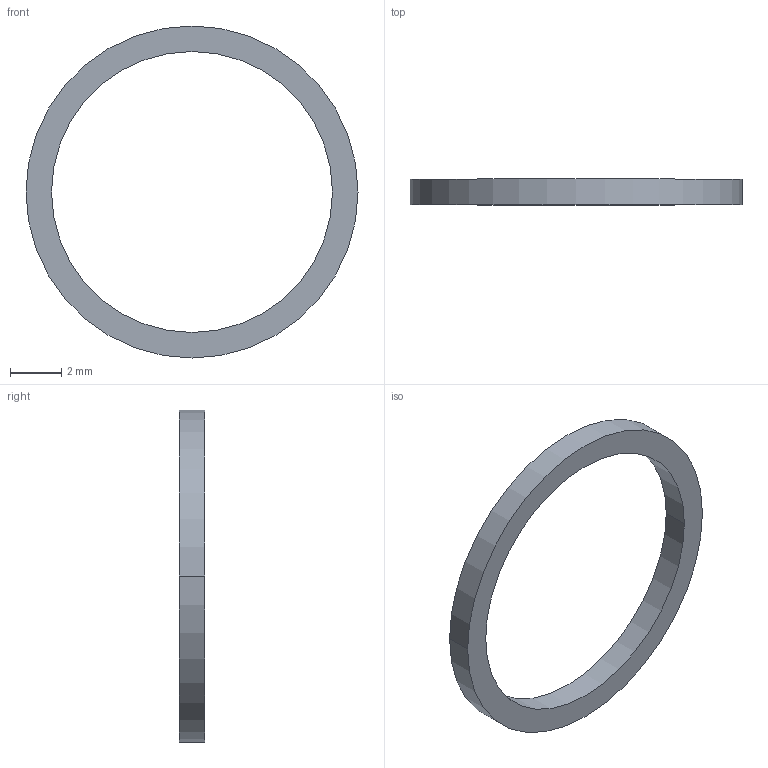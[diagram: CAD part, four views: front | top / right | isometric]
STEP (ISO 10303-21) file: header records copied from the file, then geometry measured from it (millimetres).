
FILE_DESCRIPTION((''),'2;1');
FILE_NAME('DICHTRING_DIN7603_A10','2022-06-13T16:18:23',('H041970'),(''),'CREO PARAMETRIC BY PTC INC, 2021284','CREO PARAMETRIC BY PTC INC, 2021284','');
FILE_SCHEMA(('CONFIG_CONTROL_DESIGN'));
Length unit declared in the file: millimetre
Products named in the file (1): DICHTRING_DIN7603_A10
Bounding box: 13 x 1 x 13 mm (x, y, z)
Volume: 37.7 mm3; surface area: 150.8 mm2
Topology: 1 solids, 1 shells, 6 faces, 15 edges, 14 vertices
Faces by surface type: cylinder 4, plane 2
Entity records: 230 total; most frequent: DIRECTION 37, CARTESIAN_POINT 30, ORIENTED_EDGE 24, AXIS2_PLACEMENT_3D 15, EDGE_CURVE 12, VERTEX_POINT 8, EDGE_LOOP 8, CIRCLE 8
